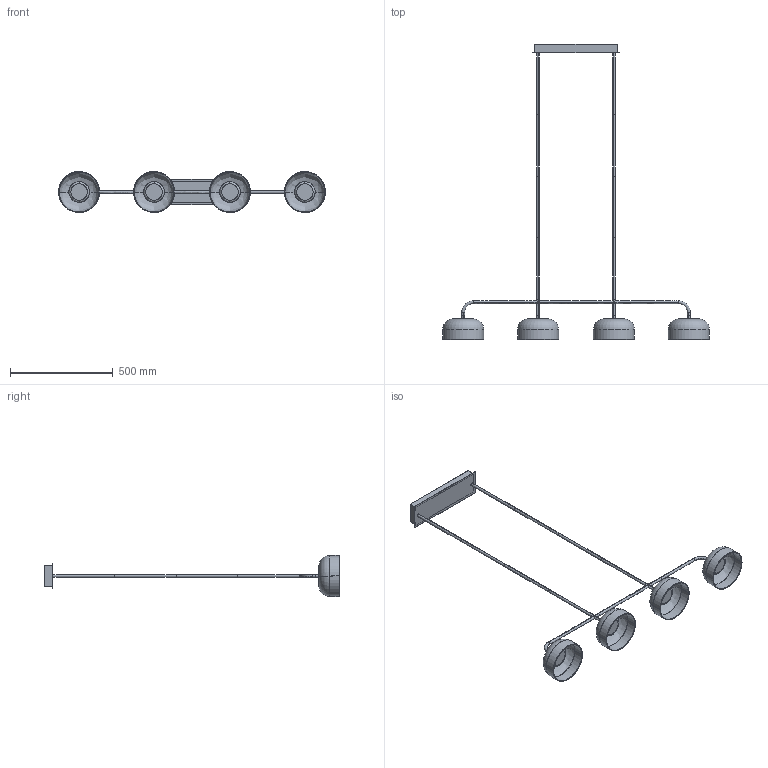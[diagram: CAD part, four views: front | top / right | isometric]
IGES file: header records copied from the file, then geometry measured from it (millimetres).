
Start section: SolidWorks IGES file using analytic representation for surfaces
Global section: file name: C:\Users\adrian\Desktop\MODELADOS USA\IPON_CU1316_4.IGS; native system: SolidWorks 2023; preprocessor: SolidWorks 2023; author: adrian; date: 260604.151550; units: millimetre
Bounding box: 1300 x 1439 x 200 mm (x, y, z)
Surface area: 1360536.3 mm2 (no closed solid volume)
Topology: 0 solids, 0 shells, 217 faces, 4416 edges, 4416 vertices
Faces by surface type: bspline 127, revolution 90
